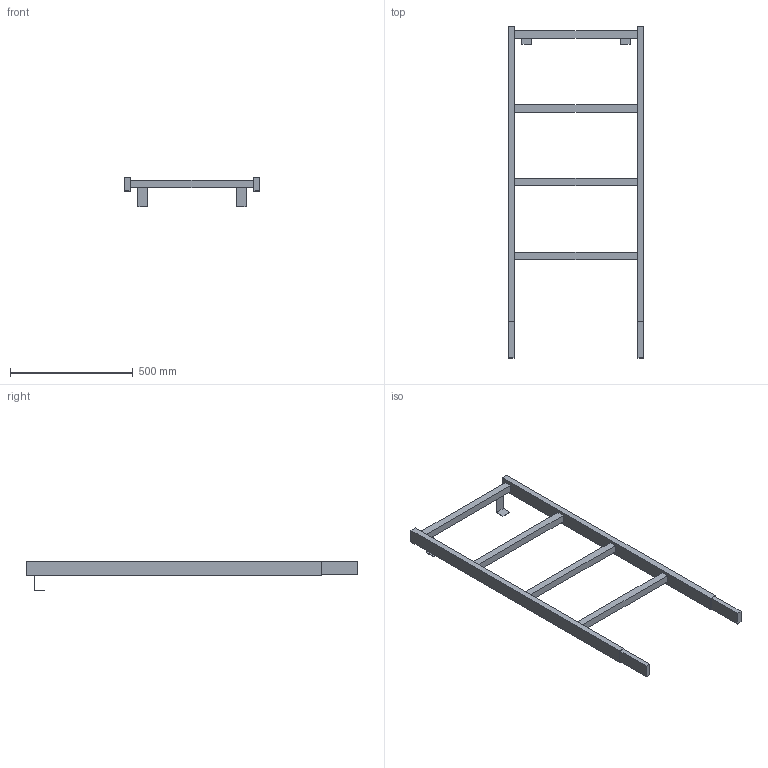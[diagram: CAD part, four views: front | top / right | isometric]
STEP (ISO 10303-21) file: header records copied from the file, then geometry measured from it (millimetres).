
FILE_DESCRIPTION((''),'2;1');
FILE_NAME('52332029','2024-12-18T10:47:44',('wep'),('HUBER SE'),'CREO PARAMETRIC BY PTC INC, 2022162','CREO PARAMETRIC BY PTC INC, 2022162','');
FILE_SCHEMA(('AUTOMOTIVE_DESIGN { 1 0 10303 214 1 1 1 1 }'));
Length unit declared in the file: millimetre
Products named in the file (1): 52332029
Bounding box: 550 x 1350 x 121.5 mm (x, y, z)
Volume: 5572460 mm3; surface area: 695988 mm2
Topology: 1 solids, 1 shells, 52 faces, 132 edges, 88 vertices
Faces by surface type: plane 52
Entity records: 2117 total; most frequent: CARTESIAN_POINT 274, ORIENTED_EDGE 264, DIRECTION 236, VECTOR 132, LINE 132, EDGE_CURVE 132, COLOUR_RGB 106, VERTEX_POINT 88
